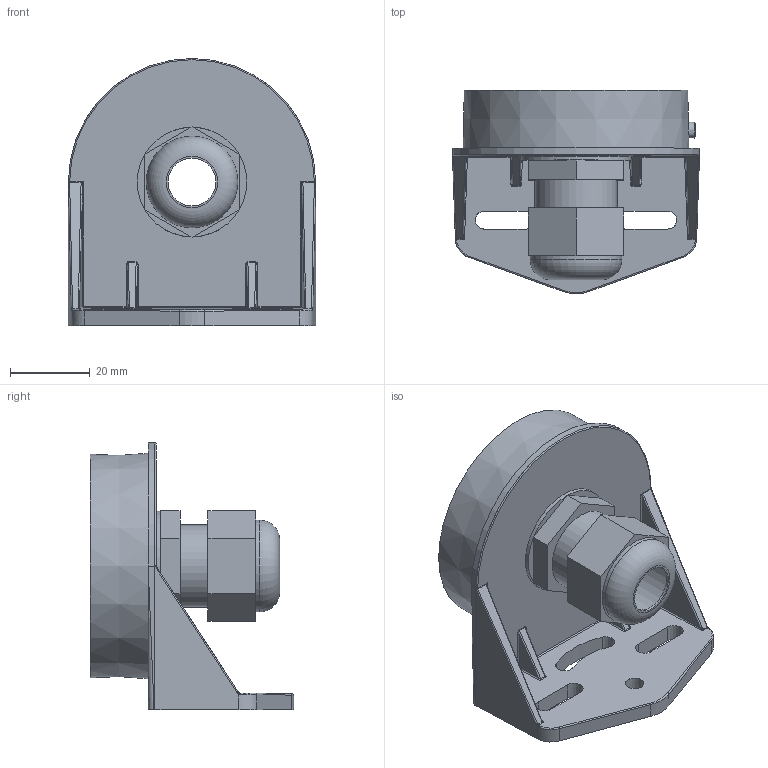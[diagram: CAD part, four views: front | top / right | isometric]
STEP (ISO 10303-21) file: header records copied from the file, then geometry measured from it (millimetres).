
FILE_DESCRIPTION(/* description */ ('Customer-3D'),/* implementation_level */ '2;1');
FILE_NAME(/* name */ 'C:\CEWorkDir\0050569C0EFC1ED8BBE03417810560C2\in\100000001850_prt_000.step',/* time_stamp */ '2018-11-23T10:30:38+01:00',/* author */ ('JENNERT'),/* organization */ ('WERMA Signaltechnik GmbH+Co.KG'),/* preprocessor_version */ 'ST-DEVELOPER v17',/* originating_system */ 'Autodesk Inventor 2018',/* authorisation */ 'public');
FILE_SCHEMA (('AUTOMOTIVE_DESIGN { 1 0 10303 214 3 1 1 }'));
Length unit declared in the file: millimetre
Products named in the file (1): 100000001850_prt_000
Bounding box: 62 x 51 x 67 mm (x, y, z)
Volume: 28483 mm3; surface area: 24401.8 mm2
Topology: 1 solids, 4 shells, 462 faces, 1072 edges, 626 vertices
Faces by surface type: cylinder 142, plane 133, bspline 81, torus 38, cone 36, sphere 32
Full cylindrical faces by diameter (mm): 12 x1, 18.376 x1, 20 x1, 20.6 x1, 23 x1, 28 x1
Entity records: 16894 total; most frequent: CARTESIAN_POINT 6108, DIRECTION 2222, ORIENTED_EDGE 2116, EDGE_CURVE 1058, AXIS2_PLACEMENT_3D 896, VERTEX_POINT 626, EDGE_LOOP 494, FACE_OUTER_BOUND 462
